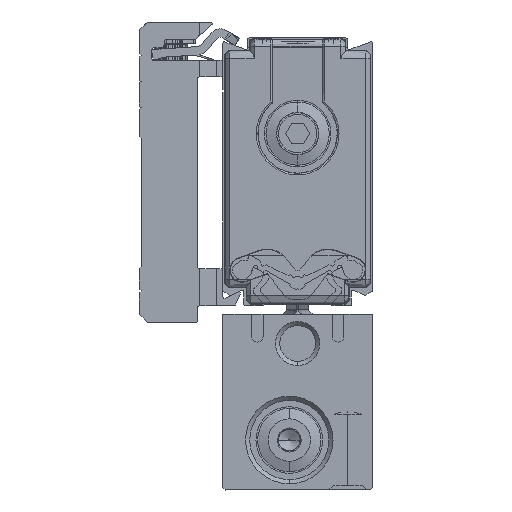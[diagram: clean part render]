
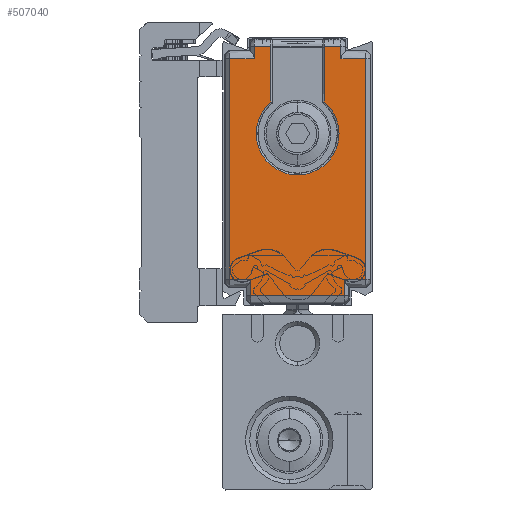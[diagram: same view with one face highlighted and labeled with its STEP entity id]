
A CAD part, left-side view. The second image highlights one B-rep face of the part: STEP entity #507040.
In plain terms, the highlighted planar face has unit normal (-1, 0, 0) as drawn and (0, 0, -1) by its records, which use the part's own axes.
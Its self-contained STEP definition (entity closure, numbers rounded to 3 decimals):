
#466200=CARTESIAN_POINT('',(24.688,30.224,-494.5));
#466210=VERTEX_POINT('',#466200);
#467260=CARTESIAN_POINT('',(31.365,35.75,-494.5));
#467270=DIRECTION('',(0.,-1.,0.));
#467280=VECTOR('',#467270,1.);
#467290=LINE('',#467260,#467280);
#467300=CARTESIAN_POINT('',(31.365,23.776,-494.5));
#467310=VERTEX_POINT('',#467300);
#467320=CARTESIAN_POINT('',(31.365,21.802,-494.5));
#467330=VERTEX_POINT('',#467320);
#467340=EDGE_CURVE('',#467310,#467330,#467290,.T.);
#474350=CARTESIAN_POINT('',(3.435,32.648,-494.5));
#474360=VERTEX_POINT('',#474350);
#474560=CARTESIAN_POINT('',(1.435,32.648,-494.5));
#474570=VERTEX_POINT('',#474560);
#474600=CARTESIAN_POINT('',(3.935,32.648,-494.5));
#474610=CARTESIAN_POINT('',(3.435,32.648,-494.5));
#474620=CARTESIAN_POINT('',(2.935,32.648,-494.5));
#474630=CARTESIAN_POINT('',(2.102,32.648,-494.5));
#474640=CARTESIAN_POINT('',(1.768,32.648,-494.5));
#474650=CARTESIAN_POINT('',(1.435,32.648,-494.5));
#474660=B_SPLINE_CURVE_WITH_KNOTS('',3,(#474600,#474610,#474620,#474630,
#474640,#474650),.UNSPECIFIED.,.F.,.F.,(4,2,4),(37.084,
38.584,39.584),.UNSPECIFIED.);
#474670=EDGE_CURVE('',#474360,#474570,#474660,.T.);
#476010=CARTESIAN_POINT('',(24.688,23.776,-494.5));
#476020=VERTEX_POINT('',#476010);
#477810=CARTESIAN_POINT('',(29.865,35.75,-494.5));
#477820=DIRECTION('',(0.,1.,0.));
#477830=VECTOR('',#477820,1.);
#477840=LINE('',#477810,#477830);
#477850=CARTESIAN_POINT('',(29.865,32.198,-494.5));
#477860=VERTEX_POINT('',#477850);
#477870=CARTESIAN_POINT('',(29.865,35.198,-494.5));
#477880=VERTEX_POINT('',#477870);
#477890=EDGE_CURVE('',#477860,#477880,#477840,.T.);
#479740=CARTESIAN_POINT('',(3.435,35.75,-494.5));
#479750=DIRECTION('',(0.,1.,0.));
#479760=VECTOR('',#479750,1.);
#479770=LINE('',#479740,#479760);
#479780=CARTESIAN_POINT('',(3.435,35.198,-494.5));
#479790=VERTEX_POINT('',#479780);
#479800=EDGE_CURVE('',#474360,#479790,#479770,.T.);
#480230=CARTESIAN_POINT('',(31.365,32.198,-494.5));
#480240=VERTEX_POINT('',#480230);
#480270=CARTESIAN_POINT('',(31.365,30.224,-494.5));
#480280=VERTEX_POINT('',#480270);
#480290=EDGE_CURVE('',#480240,#480280,#467290,.T.);
#481000=CARTESIAN_POINT('',(3.435,18.802,-494.5));
#481010=VERTEX_POINT('',#481000);
#481320=CARTESIAN_POINT('',(3.435,35.75,-494.5));
#481330=DIRECTION('',(0.,-1.,0.));
#481340=VECTOR('',#481330,1.);
#481350=LINE('',#481320,#481340);
#481360=CARTESIAN_POINT('',(3.435,21.352,-494.5));
#481370=VERTEX_POINT('',#481360);
#481380=EDGE_CURVE('',#481370,#481010,#481350,.T.);
#482230=CARTESIAN_POINT('',(1.435,21.352,-494.5));
#482240=VERTEX_POINT('',#482230);
#483710=CARTESIAN_POINT('',(3.935,21.352,-494.5));
#483720=CARTESIAN_POINT('',(3.435,21.352,-494.5));
#483730=CARTESIAN_POINT('',(2.935,21.352,-494.5));
#483740=CARTESIAN_POINT('',(2.102,21.352,-494.5));
#483750=CARTESIAN_POINT('',(1.768,21.352,-494.5));
#483760=CARTESIAN_POINT('',(1.435,21.352,-494.5));
#483770=B_SPLINE_CURVE_WITH_KNOTS('',3,(#483710,#483720,#483730,#483740,
#483750,#483760),.UNSPECIFIED.,.F.,.F.,(4,2,4),(37.084,
38.584,39.584),.UNSPECIFIED.);
#483780=EDGE_CURVE('',#481370,#482240,#483770,.T.);
#484960=CARTESIAN_POINT('',(1.435,35.75,-494.5));
#484970=DIRECTION('',(0.,1.,0.));
#484980=VECTOR('',#484970,1.);
#484990=LINE('',#484960,#484980);
#485000=EDGE_CURVE('',#482240,#474570,#484990,.T.);
#488500=CARTESIAN_POINT('',(0.15,30.224,-494.5));
#488510=DIRECTION('',(1.,0.,0.));
#488520=VECTOR('',#488510,1.);
#488530=LINE('',#488500,#488520);
#488540=EDGE_CURVE('',#466210,#480280,#488530,.T.);
#492280=CARTESIAN_POINT('',(29.865,21.802,-494.5));
#492290=VERTEX_POINT('',#492280);
#492340=CARTESIAN_POINT('',(29.365,21.802,-494.5));
#492350=CARTESIAN_POINT('',(29.782,21.802,-494.5));
#492360=CARTESIAN_POINT('',(30.198,21.802,-494.5));
#492370=CARTESIAN_POINT('',(30.865,21.802,-494.5));
#492380=CARTESIAN_POINT('',(31.115,21.802,-494.5));
#492390=CARTESIAN_POINT('',(31.365,21.802,-494.5));
#492400=B_SPLINE_CURVE_WITH_KNOTS('',3,(#492340,#492350,#492360,#492370,
#492380,#492390),.UNSPECIFIED.,.F.,.F.,(4,2,4),(37.587,
38.837,39.587),.UNSPECIFIED.);
#492410=EDGE_CURVE('',#492290,#467330,#492400,.T.);
#492740=CARTESIAN_POINT('',(29.365,32.198,-494.5));
#492750=CARTESIAN_POINT('',(29.782,32.198,-494.5));
#492760=CARTESIAN_POINT('',(30.198,32.198,-494.5));
#492770=CARTESIAN_POINT('',(30.865,32.198,-494.5));
#492780=CARTESIAN_POINT('',(31.115,32.198,-494.5));
#492790=CARTESIAN_POINT('',(31.365,32.198,-494.5));
#492800=B_SPLINE_CURVE_WITH_KNOTS('',3,(#492740,#492750,#492760,#492770,
#492780,#492790),.UNSPECIFIED.,.F.,.F.,(4,2,4),(37.587,
38.837,39.587),.UNSPECIFIED.);
#492810=EDGE_CURVE('',#477860,#480240,#492800,.T.);
#493800=CARTESIAN_POINT('',(29.865,18.802,-494.5));
#493810=VERTEX_POINT('',#493800);
#493840=CARTESIAN_POINT('',(3.435,18.802,-494.5));
#493850=CARTESIAN_POINT('',(7.84,18.802,-494.5));
#493860=CARTESIAN_POINT('',(12.245,18.802,-494.5));
#493870=CARTESIAN_POINT('',(21.055,18.802,-494.5));
#493880=CARTESIAN_POINT('',(25.46,18.802,-494.5));
#493890=CARTESIAN_POINT('',(29.865,18.802,-494.5));
#493900=B_SPLINE_CURVE_WITH_KNOTS('',3,(#493840,#493850,#493860,#493870,
#493880,#493890),.UNSPECIFIED.,.F.,.F.,(4,2,4),(24.334,
37.549,50.764),.UNSPECIFIED.);
#493910=EDGE_CURVE('',#481010,#493810,#493900,.T.);
#500310=CARTESIAN_POINT('',(29.865,35.75,-494.5));
#500320=DIRECTION('',(0.,-1.,0.));
#500330=VECTOR('',#500320,1.);
#500340=LINE('',#500310,#500330);
#500350=EDGE_CURVE('',#492290,#493810,#500340,.T.);
#501540=CARTESIAN_POINT('',(3.435,35.198,-494.5));
#501550=CARTESIAN_POINT('',(7.84,35.198,-494.5));
#501560=CARTESIAN_POINT('',(12.245,35.198,-494.5));
#501570=CARTESIAN_POINT('',(21.055,35.198,-494.5));
#501580=CARTESIAN_POINT('',(25.46,35.198,-494.5));
#501590=CARTESIAN_POINT('',(29.865,35.198,-494.5));
#501600=B_SPLINE_CURVE_WITH_KNOTS('',3,(#501540,#501550,#501560,#501570,
#501580,#501590),.UNSPECIFIED.,.F.,.F.,(4,2,4),(24.308,
37.523,50.738),.UNSPECIFIED.);
#501610=EDGE_CURVE('',#479790,#477880,#501600,.T.);
#506530=CARTESIAN_POINT('',(20.9,27.,-494.5));
#506540=DIRECTION('',(0.,0.,-1.));
#506550=DIRECTION('',(0.,1.,0.));
#506560=AXIS2_PLACEMENT_3D('',#506530,#506540,#506550);
#506570=CIRCLE('',#506560,4.974);
#506580=EDGE_CURVE('',#476020,#466210,#506570,.T.);
#506760=CARTESIAN_POINT('',(16.65,27.,-494.5));
#506770=DIRECTION('',(0.,0.,1.));
#506780=DIRECTION('',(0.,1.,0.));
#506790=AXIS2_PLACEMENT_3D('',#506760,#506770,#506780);
#506800=PLANE('',#506790);
#506810=ORIENTED_EDGE('',*,*,#506580,.F.);
#506820=ORIENTED_EDGE('',*,*,#488540,.F.);
#506830=ORIENTED_EDGE('',*,*,#480290,.T.);
#506840=ORIENTED_EDGE('',*,*,#492810,.T.);
#506850=ORIENTED_EDGE('',*,*,#477890,.F.);
#506860=ORIENTED_EDGE('',*,*,#501610,.T.);
#506870=ORIENTED_EDGE('',*,*,#479800,.T.);
#506880=ORIENTED_EDGE('',*,*,#474670,.F.);
#506890=ORIENTED_EDGE('',*,*,#485000,.T.);
#506900=ORIENTED_EDGE('',*,*,#483780,.T.);
#506910=ORIENTED_EDGE('',*,*,#481380,.F.);
#506920=ORIENTED_EDGE('',*,*,#493910,.F.);
#506930=ORIENTED_EDGE('',*,*,#500350,.T.);
#506940=ORIENTED_EDGE('',*,*,#492410,.F.);
#506950=ORIENTED_EDGE('',*,*,#467340,.T.);
#506960=CARTESIAN_POINT('',(0.15,23.776,-494.5));
#506970=DIRECTION('',(-1.,0.,0.));
#506980=VECTOR('',#506970,1.);
#506990=LINE('',#506960,#506980);
#507000=EDGE_CURVE('',#467310,#476020,#506990,.T.);
#507010=ORIENTED_EDGE('',*,*,#507000,.F.);
#507020=EDGE_LOOP('',(#507010,#506950,#506940,#506930,#506920,#506910,
#506900,#506890,#506880,#506870,#506860,#506850,#506840,#506830,#506820,
#506810));
#507030=FACE_OUTER_BOUND('',#507020,.T.);
#507040=ADVANCED_FACE('',(#507030),#506800,.F.);
